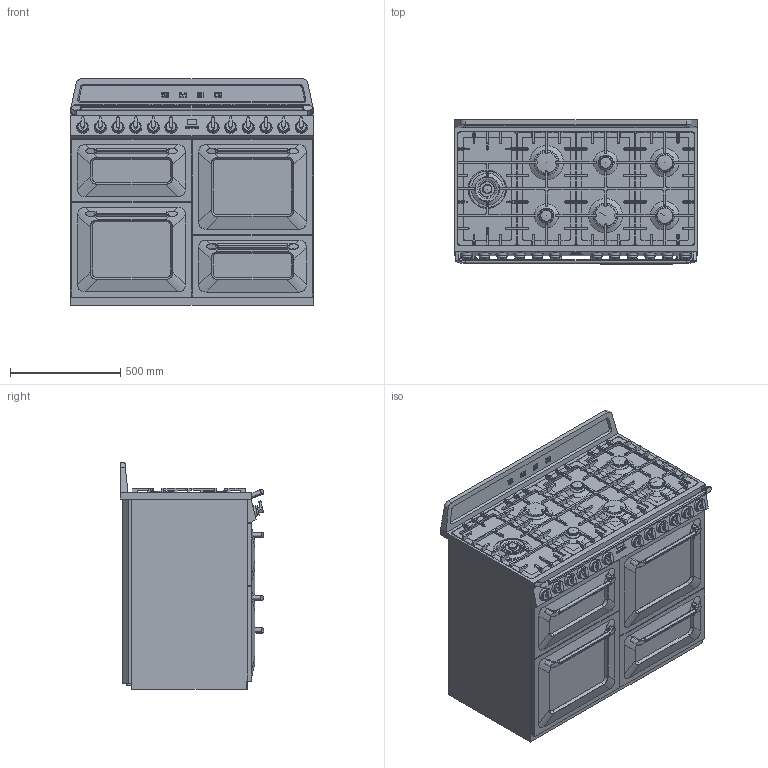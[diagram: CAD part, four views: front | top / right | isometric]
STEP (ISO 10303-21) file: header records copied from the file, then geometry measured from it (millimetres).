
FILE_DESCRIPTION(/* description */ (''),/* implementation_level */ '2;1');
FILE_NAME(/* name */ 'model1.stp',/* time_stamp */ '2017-10-31T17:14:58+01:00',/* author */ (''),/* organization */ (''),/* preprocessor_version */ 'ST-DEVELOPER v16',/* originating_system */ 'SIEMENS PLM Software NX 11.0',/* authorisation */ '');
FILE_SCHEMA (('AUTOMOTIVE_DESIGN { 1 0 10303 214 3 1 1 1 }'));
Products named in the file (1): gras0E00F41Bokj6
Bounding box: 1100 x 651.73 x 1024.8 mm (x, y, z)
Volume: 583647299.7 mm3; surface area: 11757718 mm2
Topology: 80 solids, 86 shells, 1991 faces, 5109 edges, 3339 vertices
Faces by surface type: plane 1037, bspline 369, extrusion 261, cylinder 245, cone 58, torus 16, sphere 5
Full cylindrical faces by diameter (mm): 3.9 x5, 5 x20, 8 x5, 9 x5, 20 x3, 22 x12, 37 x1, 43 x1, 43.084 x12, 46 x2, 55 x2, 65.3 x2, 66 x1, 67 x2, 71.4 x1, 75 x2, 84.934 x1, 85.5 x2, 90 x2, 100 x2, 108.8 x1, 110.5 x2, 113 x1, 113.323 x1, 144.5 x1
Entity records: 78379 total; most frequent: CARTESIAN_POINT 33789, ORIENTED_EDGE 9839, DIRECTION 7163, EDGE_CURVE 4934, VERTEX_POINT 3322, VECTOR 2969, LINE 2708, EDGE_LOOP 2213
